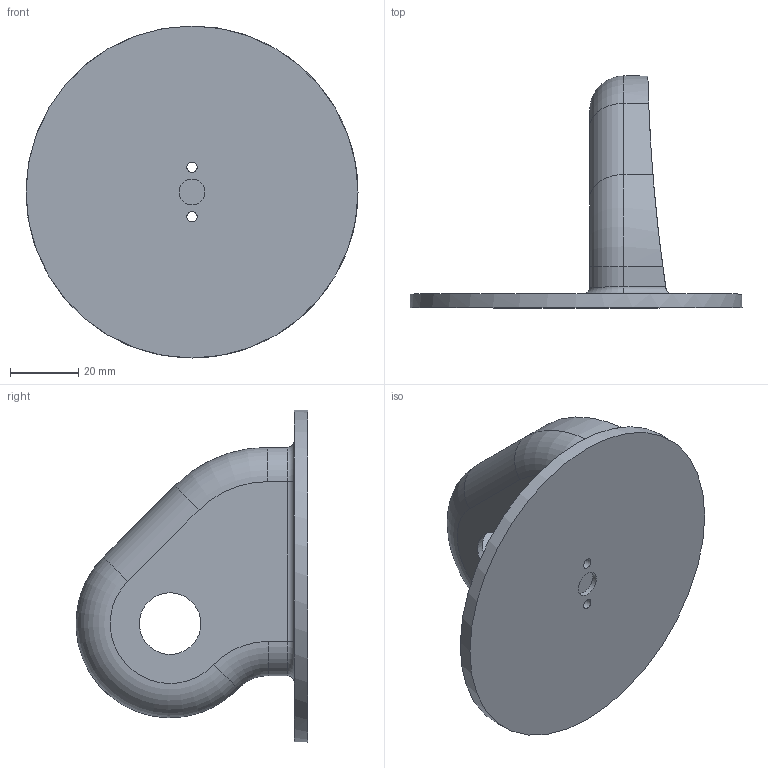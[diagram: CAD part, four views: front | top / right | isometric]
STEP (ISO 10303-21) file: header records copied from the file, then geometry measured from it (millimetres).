
FILE_DESCRIPTION(/* description */ (''),/* implementation_level */ '2;1');
FILE_NAME(/* name */ 'Waist.step',/* time_stamp */ '2024-01-03T11:59:57+05:30',/* author */ (''),/* organization */ (''),/* preprocessor_version */ 'ST-DEVELOPER v20',/* originating_system */ 'Autodesk Translation Framework v12.14.0.127',/* authorisation */ '');
FILE_SCHEMA (('AUTOMOTIVE_DESIGN { 1 0 10303 214 3 1 1 }'));
Length unit declared in the file: millimetre
Products named in the file (1): Waist
Bounding box: 97 x 67.75 x 97 mm (x, y, z)
Volume: 73647.5 mm3; surface area: 27011.1 mm2
Topology: 1 solids, 1 shells, 56 faces, 127 edges, 79 vertices
Faces by surface type: cylinder 27, plane 18, torus 6, bspline 5
Full cylindrical faces by diameter (mm): 2.6 x4, 3 x2, 7.5 x1, 18 x1, 97 x1
Entity records: 2748 total; most frequent: CARTESIAN_POINT 1435, DIRECTION 280, ORIENTED_EDGE 254, EDGE_CURVE 127, AXIS2_PLACEMENT_3D 114, VERTEX_POINT 79, EDGE_LOOP 68, FACE_OUTER_BOUND 56
